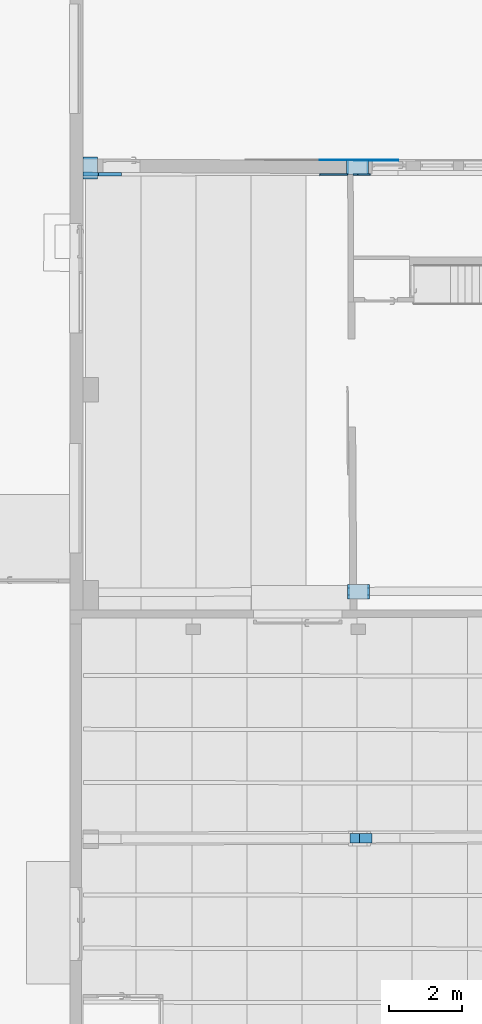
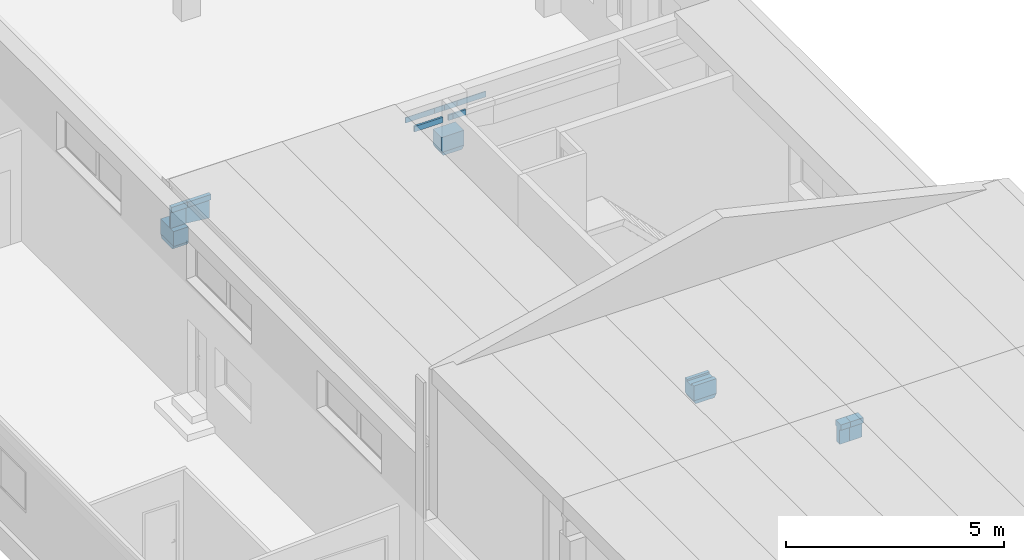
# One storey, part 222 of 301: 17 building element parts, 9 elements without a shape of their own.
"""IFC2X3 building model written with IfcOpenShell, lengths in millimetres."""

import ifcopenshell
import ifcopenshell.guid

model = None  # the IFC model being written
_history = None  # IfcOwnerHistory: only IFC2X3 demands one
_inside = {}  # id of a spatial element -> (the spatial element, [elements in it])
_under = {}  # id of a project, library or spatial element -> (it, [spatial elements below it])
_declared = {}  # id of a project -> (the project, [libraries it declares])
_typed = {}  # id of a type object -> (the type object, [elements of that type])
_made_of = {}  # id of a material, layer set ... -> (it, [elements and type objects made of it])


def new_model(schema):
    """Start an empty IFC model of exactly this schema.

    Asked for "IFC4X3", IfcOpenShell would pick the latest addendum, in which some entities
    have other attributes; the version numbers below select the first issue.
    IFC2X3 requires an IfcOwnerHistory on every rooted entity: one is made here for all.
    """
    global model, _history
    if schema == "IFC4X3":
        model = ifcopenshell.file(schema_version=(4, 3, 0, 0))
    else:
        model = ifcopenshell.file(schema=schema)
    _inside.clear()
    _under.clear()
    _declared.clear()
    _typed.clear()
    _made_of.clear()
    _history = None
    if model.schema == "IFC2X3":
        org = make("IfcOrganization", Name="unknown")
        user = make(
            "IfcPersonAndOrganization",
            ThePerson=make("IfcPerson", FamilyName="unknown"),
            TheOrganization=org,
        )
        app = make(
            "IfcApplication",
            ApplicationDeveloper=org,
            Version="unknown",
            ApplicationFullName="unknown",
            ApplicationIdentifier="unknown",
        )
        _history = make(
            "IfcOwnerHistory",
            OwningUser=user,
            OwningApplication=app,
            ChangeAction="ADDED",
            CreationDate=0,
        )
    return model


def make(cls, **values):
    """One entity of the class cls with the attributes given. An attribute that is None is left unset."""
    return model.create_entity(
        cls, **{name: value for name, value in values.items() if value is not None}
    )


def entity(cls, *values):
    """Any entity or typed value of the class cls, its attributes in the order of the schema. None: left unset."""
    e = model.create_entity(cls)
    for i, value in enumerate(values):
        if value is not None:
            e[i] = value
    return e


def rooted(cls, **values):
    """An entity with a GlobalId (a new one), such as an element, a storey or a relation."""
    return make(cls, GlobalId=ifcopenshell.guid.new(), OwnerHistory=_history, **values)


def si_unit(unit_type, name, prefix=None):
    """IfcSIUnit, for example si_unit("LENGTHUNIT", "METRE", prefix="MILLI")."""
    return make("IfcSIUnit", UnitType=unit_type, Prefix=prefix, Name=name)


def converted_unit(unit_type, name, factor, base, dimensions=None, offset=None):
    """IfcConversionBasedUnit, such as the inch: factor (a typed value) times the base unit."""
    return make(
        "IfcConversionBasedUnit"
        if offset is None
        else "IfcConversionBasedUnitWithOffset",
        ConversionOffset=offset,
        Dimensions=None
        if dimensions is None
        else entity("IfcDimensionalExponents", *dimensions),
        UnitType=unit_type,
        Name=name,
        ConversionFactor=make(
            "IfcMeasureWithUnit", ValueComponent=factor, UnitComponent=base
        ),
    )


def derived_unit(unit_type, elements):
    """IfcDerivedUnit: a product of units, each with its exponent."""
    return make(
        "IfcDerivedUnit",
        Elements=[
            make("IfcDerivedUnitElement", Unit=unit, Exponent=power)
            for unit, power in elements
        ],
        UnitType=unit_type,
    )


def money_unit(currency):
    """IfcMonetaryUnit."""
    return make("IfcMonetaryUnit", Currency=currency)


def assignment(units):
    """IfcUnitAssignment: the units of a project."""
    return None if units is None else make("IfcUnitAssignment", Units=units)


def point(xyz):
    """IfcCartesianPoint."""
    return None if xyz is None else make("IfcCartesianPoint", Coordinates=xyz)


def direction(xyz):
    """IfcDirection."""
    return None if xyz is None else make("IfcDirection", DirectionRatios=xyz)


def frame(location, z_axis=None, x_axis=None):
    """IfcAxis2Placement3D, a coordinate frame: its origin and axes. An axis left out is left unset."""
    return make(
        "IfcAxis2Placement3D",
        Location=point(location),
        Axis=direction(z_axis),
        RefDirection=direction(x_axis),
    )


def origin_with_axes():
    """The frame at (0, 0, 0) with the z axis (0, 0, 1) and the x axis (1, 0, 0) written out."""
    return frame((0.0, 0.0, 0.0), z_axis=(0.0, 0.0, 1.0), x_axis=(1.0, 0.0, 0.0))


def place(relative_to, where):
    """IfcLocalPlacement: puts the frame where relative to a parent placement (None: the world)."""
    return make(
        "IfcLocalPlacement", PlacementRelTo=relative_to, RelativePlacement=where
    )


def context(
    kind, dimensions, precision=None, world=None, true_north=None, identifier=None
):
    """IfcGeometricRepresentationContext, for example the 3D "Model" context."""
    return make(
        "IfcGeometricRepresentationContext",
        ContextIdentifier=identifier,
        ContextType=kind,
        CoordinateSpaceDimension=dimensions,
        Precision=precision,
        WorldCoordinateSystem=world,
        TrueNorth=true_north,
    )


def subcontext(parent, identifier, kind, view, scale=None):
    """IfcGeometricRepresentationSubContext, for example "Body" below "Model"."""
    return make(
        "IfcGeometricRepresentationSubContext",
        ContextIdentifier=identifier,
        ContextType=kind,
        ParentContext=parent,
        TargetScale=scale,
        TargetView=view,
    )


def project(units=None, contexts=None):
    """IfcProject with its units and contexts."""
    return rooted(
        "IfcProject",
        Name="project",
        RepresentationContexts=contexts,
        UnitsInContext=assignment(units),
    )


def spatial(cls, under=None, at=None, **own):
    """A site, building, storey or space (cls), placed at a placement, below another one or the project."""
    s = rooted(cls, ObjectPlacement=at, **own)
    if under is not None:
        _under.setdefault(under.id(), (under, []))[1].append(s)
    return s


def faces_of(points, faces, orient=None, outer=None):
    """IfcFace entities. A face is a list of loops; a loop is a list of indices into points, from 0.

    orient and outer hold one flag for each loop. By default every Orientation is true, the
    first loop of a face is its IfcFaceOuterBound and the others are IfcFaceBound.
    """
    made = []
    for i, loops in enumerate(faces):
        bounds = []
        for j, loop in enumerate(loops):
            is_outer = j == 0 if outer is None else outer[i][j]
            bounds.append(
                make(
                    "IfcFaceOuterBound" if is_outer else "IfcFaceBound",
                    Bound=make("IfcPolyLoop", Polygon=[points[k] for k in loop]),
                    Orientation=True if orient is None else orient[i][j],
                )
            )
        made.append(make("IfcFace", Bounds=bounds))
    return made


def faceted_brep(points, faces, orient=None, outer=None, voids=None):
    """IfcFacetedBrep: a solid bounded by flat faces; with voids (closed shells), ...WithVoids."""
    shared = [point(p) for p in points]
    hull = make("IfcClosedShell", CfsFaces=faces_of(shared, faces, orient, outer))
    if voids is None:
        return make("IfcFacetedBrep", Outer=hull)
    return make(
        "IfcFacetedBrepWithVoids",
        Outer=hull,
        Voids=[
            make(cls, CfsFaces=faces_of(shared, fs, o, b)) for cls, fs, o, b in voids
        ],
    )


def shape(context_of_items, identifier, shape_type, items):
    """IfcShapeRepresentation: the items that make up one representation, for example the "Body"."""
    return make(
        "IfcShapeRepresentation",
        ContextOfItems=context_of_items,
        RepresentationIdentifier=identifier,
        RepresentationType=shape_type,
        Items=items,
    )


def material(Name=None, Category=None):
    """IfcMaterial."""
    return make("IfcMaterial", Name=Name, Category=Category)


def made_of(thing, what):
    """Note that an element or type object is made of a material, layer set ...; save() writes the relation."""
    if what is not None:
        _made_of.setdefault(what.id(), (what, []))[1].append(thing)
    return thing


def type_object(cls, material=None, **own):
    """A type object (cls), such as IfcWallType, which elements share."""
    return made_of(rooted(cls, **own), material)


def element(
    cls,
    number,
    at=None,
    inside=None,
    cuts=None,
    type_object=None,
    material=None,
    context=None,
    identifier="Body",
    shape_type=None,
    held_by="IfcProductDefinitionShape",
    body=None,
    shapes=None,
    **own,
):
    """One element of the class cls, such as IfcWall. Its Tag is "e" and its number.

    at: its placement. inside: the storey or other place that contains it. cuts: it is an
    opening in that element (IfcRelVoidsElement). A single representation is given by context,
    identifier, shape_type and body (its items); several are given by shapes. held_by: the class
    of the entity that holds the representations. save() writes the other relations.
    """
    e = rooted(cls, Tag="e%d" % number, ObjectPlacement=at, **own)
    if body is not None:
        shapes = [shape(context, identifier, shape_type, body)]
    if shapes is not None:
        e.Representation = make(held_by, Representations=shapes)
    if inside is not None:
        _inside.setdefault(inside.id(), (inside, []))[1].append(e)
    if cuts is not None:
        rooted(
            "IfcRelVoidsElement", RelatingBuildingElement=cuts, RelatedOpeningElement=e
        )
    if type_object is not None:
        _typed.setdefault(type_object.id(), (type_object, []))[1].append(e)
    return made_of(e, material)


def aggregate(whole, parts):
    """IfcRelAggregates: a whole, such as a stair, and the parts it consists of."""
    return rooted("IfcRelAggregates", RelatingObject=whole, RelatedObjects=parts)


def save(model, path):
    """Write the relations noted so far, then the file.

    IfcRelAggregates (storeys below a building ...), IfcRelContainedInSpatialStructure (elements
    in a storey), IfcRelDefinesByType, IfcRelAssociatesMaterial and IfcRelDeclares: one each for
    every whole, place, type object, material and project.
    """
    for whole, parts in _under.values():
        aggregate(whole, parts)
    for where, things in _inside.values():
        rooted(
            "IfcRelContainedInSpatialStructure",
            RelatedElements=things,
            RelatingStructure=where,
        )
    for kind, things in _typed.values():
        rooted("IfcRelDefinesByType", RelatedObjects=things, RelatingType=kind)
    for what, things in _made_of.values():
        rooted("IfcRelAssociatesMaterial", RelatedObjects=things, RelatingMaterial=what)
    for by, libraries in _declared.values():
        rooted("IfcRelDeclares", RelatingContext=by, RelatedDefinitions=libraries)
    model.write(path)


model = new_model("IFC2X3")

# Units and contexts
model_context = context("Model", 3, precision=0.01, world=origin_with_axes(), true_north=direction((0.0, 1.0)))
body_context = subcontext(model_context, "Body", "Model", "MODEL_VIEW")
ifc_project = project(units=[si_unit("LENGTHUNIT", "METRE", prefix="MILLI"), si_unit("AREAUNIT", "SQUARE_METRE"), si_unit("VOLUMEUNIT", "CUBIC_METRE"), converted_unit("PLANEANGLEUNIT", "DEGREE", entity("IfcPlaneAngleMeasure", 0.0174532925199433), si_unit("PLANEANGLEUNIT", "RADIAN"), dimensions=[0, 0, 0, 0, 0, 0, 0]), money_unit("EUR"), converted_unit("TIMEUNIT", "Year", entity("IfcTimeMeasure", 31557600.0), si_unit("TIMEUNIT", "SECOND"), dimensions=[0, 0, 1, 0, 0, 0, 0]), si_unit("MASSUNIT", "GRAM", prefix="KILO"), si_unit("THERMODYNAMICTEMPERATUREUNIT", "DEGREE_CELSIUS"), si_unit("LUMINOUSINTENSITYUNIT", "LUMEN"), si_unit("ENERGYUNIT", "JOULE", prefix="MEGA"), derived_unit("THERMALCONDUCTANCEUNIT", [(si_unit("POWERUNIT", "WATT"), 1), (si_unit("LENGTHUNIT", "METRE"), -1), (si_unit("THERMODYNAMICTEMPERATUREUNIT", "KELVIN"), -1)]), derived_unit("SPECIFICHEATCAPACITYUNIT", [(si_unit("ENERGYUNIT", "JOULE"), 1), (si_unit("MASSUNIT", "GRAM", prefix="KILO"), -1), (si_unit("THERMODYNAMICTEMPERATUREUNIT", "KELVIN"), -1)]), derived_unit("MASSDENSITYUNIT", [(si_unit("MASSUNIT", "GRAM", prefix="KILO"), 1), (si_unit("VOLUMEUNIT", "CUBIC_METRE"), -1)])], contexts=[model_context])

# Site, building, storey
site_placement = place(None, frame((0.0, 0.0, 8650.0), z_axis=(0.0, 0.0, 1.0), x_axis=(1.0, 0.0, 0.0)))
site = spatial("IfcSite", under=ifc_project, at=site_placement, Name="43301:001:0844", CompositionType="ELEMENT")
building_placement = place(site_placement, origin_with_axes())
building = spatial("IfcBuilding", under=site, at=building_placement, Name="Kuressaare Ametikooli tuulikute mehaanikute õppekorpus", CompositionType="ELEMENT")
storey_placement = place(building_placement, origin_with_axes())
storey = spatial("IfcBuildingStorey", under=building, at=storey_placement, Name="1.korrus", CompositionType="ELEMENT", Elevation=0.0)

# Beam, building element part
beam_type_1 = type_object("IfcBeamType", Name="Various Structures - 5 Segments - 250 x 700 x 7435 (338+766+5341+640+350)", PredefinedType="NOTDEFINED")
beam_1_placement = place(storey_placement, frame((95793.5361313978, 56107.49431488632, 6659.999999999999), z_axis=(0.0, 0.0, 1.0), x_axis=(0.005495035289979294, -0.9999849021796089, 0.0)))
beam_1 = element("IfcBeam", 1, at=beam_1_placement, inside=storey, type_object=beam_type_1)
ifc_material_1 = material(Name="Raudbetoon")
building_element_part_1_placement = place(beam_1_placement, origin_with_axes())
building_element_part_1 = element("IfcBuildingElementPart", 2, at=building_element_part_1_placement, material=ifc_material_1, Name="Raudbetoon", context=body_context, shape_type="Brep", body=[
    faceted_brep([(-123.0248502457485, 337.7568168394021, 0.0), (-123.0248351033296, 337.7568168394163, -5.000214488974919), (96.1340771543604, 337.7568168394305, -5.000214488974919), (96.13409229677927, 337.7568168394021, 0.0), (125.0055545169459, 337.7568168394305, 0.0), (125.0052826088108, 337.7568168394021, -150.0000000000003), (64.99999999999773, 337.7568168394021, -164.4012678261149), (64.99999999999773, 337.7568168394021, -579.8231697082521), (-65.00000000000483, 337.7568168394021, -579.8231697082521), (-65.00000000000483, 337.7568168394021, -164.4012678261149), (-125.0052826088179, 337.7568168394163, -150.0000000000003), (-125.0055545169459, 337.7568168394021, 0.0), (-123.6647462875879, 0.0, -5.000214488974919), (-123.6647614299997, 0.0, 0.0), (95.49416597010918, 0.0, -5.000214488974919), (95.49418111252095, 0.0, 0.0), (125.0055545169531, 0.0, 0.0), (125.0052826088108, 0.0, -150.0000000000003), (64.99999999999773, 0.0, -164.4012678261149), (64.99999999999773, 0.0, -579.8231697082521), (-64.99999999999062, 0.0, -579.8231697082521), (-64.99999999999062, 0.0, -164.4012678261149), (-125.0052826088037, 0.0, -150.0000000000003), (-125.0055545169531, 0.0, 0.0)], [[[0, 1, 2, 3, 4, 5, 6, 7, 8, 9, 10, 11]], [[12, 1, 0, 13]], [[14, 2, 1, 12]], [[14, 15, 3, 2]], [[4, 3, 15, 16]], [[16, 17, 5, 4]], [[17, 18, 6, 5]], [[18, 19, 7, 6]], [[19, 20, 8, 7]], [[20, 21, 9, 8]], [[21, 22, 10, 9]], [[22, 23, 11, 10]], [[23, 13, 0, 11]], [[14, 12, 13, 23, 22, 21, 20, 19, 18, 17, 16, 15]]]),
])
aggregate(beam_1, [building_element_part_1])

beam_type_2 = type_object("IfcBeamType", Name="Various Structures - 5 Segments - 250 x 700 x 7535 (262+767+5466+621+419)", PredefinedType="NOTDEFINED")
beam_2_placement = place(storey_placement, frame((95793.5361313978, 56107.49431488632, 6659.999999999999), z_axis=(0.0, 0.0, 1.0), x_axis=(-0.001731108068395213, 0.9999985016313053, 0.0)))
beam_2 = element("IfcBeam", 3, at=beam_2_placement, inside=storey, type_object=beam_type_2)
building_element_part_2_placement = place(beam_2_placement, origin_with_axes())
building_element_part_2 = element("IfcBuildingElementPart", 4, at=building_element_part_2_placement, material=ifc_material_1, Name="Raudbetoon", context=body_context, shape_type="Brep", body=[
    faceted_brep([(123.6647555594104, 0.0, 0.0), (123.6647404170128, 0.0, -5.000214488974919), (-95.49416143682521, 0.0, -5.000214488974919), (-95.49417657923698, 0.0, 0.0), (-125.0055545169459, 0.0, 0.0), (-125.0052826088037, 0.0, -150.0000000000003), (-64.99999999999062, 0.0, -164.4012678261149), (-64.99999999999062, 0.0, -579.8231697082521), (65.00000000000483, 0.0, -579.8231697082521), (65.00000000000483, 0.0, -164.4012678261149), (125.0052826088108, 0.0, -150.0000000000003), (125.0055545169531, 0.0, 0.0), (123.17538164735, 261.7777961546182, -5.000214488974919), (123.1753967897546, 261.7777961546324, 0.0), (-95.98352020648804, 261.7777961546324, -5.000214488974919), (-95.9835353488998, 261.7777961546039, 0.0), (-125.0055545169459, 261.7777961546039, 0.0), (-125.0052826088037, 261.7777961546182, -150.0000000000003), (-64.99999999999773, 261.7777961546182, -164.4012678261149), (-64.99999999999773, 261.7777961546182, -579.8231697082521), (65.00000000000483, 261.7777961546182, -579.8231697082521), (65.00000000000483, 261.7777961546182, -164.4012678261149), (125.0052826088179, 261.7777961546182, -150.0000000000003), (125.0055545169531, 261.7777961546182, 0.0)], [[[0, 1, 2, 3, 4, 5, 6, 7, 8, 9, 10, 11]], [[12, 1, 0, 13]], [[14, 2, 1, 12]], [[14, 15, 3, 2]], [[4, 3, 15, 16]], [[5, 4, 16, 17]], [[6, 5, 17, 18]], [[7, 6, 18, 19]], [[8, 7, 19, 20]], [[9, 8, 20, 21]], [[10, 9, 21, 22]], [[11, 10, 22, 23]], [[23, 13, 0, 11]], [[14, 12, 13, 23, 22, 21, 20, 19, 18, 17, 16, 15]]]),
])
aggregate(beam_2, [building_element_part_2])

# Column, building element parts
column_type_1 = type_object("IfcColumnType", Name="Various Structures - 3 Segments - 600 x 400 x 4050 (3533+102+415)", PredefinedType="NOTDEFINED")
column_1_placement = place(storey_placement, frame((95739.70185815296, 74382.82610490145, -330.0), z_axis=(0.0, 0.0, 1.0), x_axis=(1.0, 0.0, 0.0)))
column_1 = element("IfcColumn", 5, at=column_1_placement, inside=storey, type_object=column_type_1)
ifc_material_2 = material(Name="GENEERILINE - KONSTRUKTRIOON")
building_element_part_3_placement = place(column_1_placement, origin_with_axes())
building_element_part_3 = element("IfcBuildingElementPart", 6, at=building_element_part_3_placement, material=ifc_material_2, Name="GENEERILINE - KONSTRUKTRIOON", context=body_context, shape_type="Brep", body=[
    faceted_brep([(299.9999999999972, -200.0000000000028, 3635.0), (-299.9999999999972, -200.0000000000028, 3635.0), (-250.0, -200.0000000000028, 3532.979557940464), (250.0, -200.0000000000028, 3532.979557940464), (299.9999999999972, 200.0000000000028, 3635.0), (-299.9999999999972, 200.0000000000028, 3635.0), (-250.0, 200.0000000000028, 3532.979557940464), (250.0, 200.0000000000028, 3532.979557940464)], [[[0, 1, 2, 3]], [[4, 5, 1, 0]], [[1, 5, 6, 2]], [[7, 3, 2, 6]], [[4, 0, 3, 7]], [[5, 4, 7, 6]]]),
])
building_element_part_4_placement = place(column_1_placement, origin_with_axes())
building_element_part_4 = element("IfcBuildingElementPart", 7, at=building_element_part_4_placement, material=ifc_material_2, Name="GENEERILINE - KONSTRUKTRIOON", context=body_context, shape_type="Brep", body=[
    faceted_brep([(-299.9999999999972, -200.0000000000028, 4050.0), (-299.9999999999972, -200.0000000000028, 3635.0), (299.9999999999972, -200.0000000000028, 3635.0), (299.9999999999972, -200.0000000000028, 4050.0), (-299.9999999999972, 200.0000000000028, 4050.0), (-299.9999999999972, 200.0000000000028, 3635.0), (299.9999999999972, 200.0000000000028, 3635.0), (299.9999999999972, 200.0000000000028, 4050.0)], [[[0, 1, 2, 3]], [[4, 5, 1, 0]], [[2, 1, 5, 6]], [[3, 2, 6, 7]], [[4, 0, 3, 7]], [[7, 6, 5, 4]]]),
])
aggregate(column_1, [building_element_part_3, building_element_part_4])

# Beam, building element parts
beam_type_3 = type_object("IfcBeamType", Name="Various Structures - 5 Segments - 250 x 700 x 7488 (338+766+5404+640+341)", PredefinedType="NOTDEFINED")
beam_3_placement = place(storey_placement, frame((95739.59932354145, 74462.89050016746, 4300.0), z_axis=(0.0, 0.0, 1.0), x_axis=(0.001815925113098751, -0.9999983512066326, 0.0)))
beam_3 = element("IfcBeam", 8, at=beam_3_placement, inside=storey, type_object=beam_type_3)
building_element_part_5_placement = place(beam_3_placement, origin_with_axes())
building_element_part_5 = element("IfcBuildingElementPart", 9, at=building_element_part_5_placement, material=ifc_material_1, Name="Raudbetoon", context=body_context, shape_type="Brep", body=[
    faceted_brep([(-125.0055545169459, 0.0, 0.0), (-104.536753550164, 0.0, 0.0), (-102.0204727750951, 337.7568168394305, 0.0), (-125.0055545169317, 337.7568168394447, 0.0), (-125.0052826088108, 0.0, -150.0000000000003), (-104.536753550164, 0.0, -154.912446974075), (-102.0204727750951, 337.7568168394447, -155.5163543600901), (-125.0052826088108, 337.7568168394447, -150.0000000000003)], [[[0, 1, 2, 3]], [[4, 5, 1, 0]], [[5, 6, 2, 1]], [[3, 2, 6, 7]], [[3, 7, 4, 0]], [[7, 6, 5, 4]]]),
])
building_element_part_6_placement = place(beam_3_placement, origin_with_axes())
building_element_part_6 = element("IfcBuildingElementPart", 10, at=building_element_part_6_placement, material=ifc_material_1, Name="Raudbetoon", context=body_context, shape_type="Brep", body=[
    faceted_brep([(-102.0204727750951, 337.7568168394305, 0.0), (-101.5820907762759, 396.600213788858, 0.0), (-100.2980713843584, 1103.687342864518, 0.0), (-125.0047820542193, 1103.687342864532, 0.0), (-125.0049071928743, 912.2047113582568, 0.0), (-125.00515747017, 529.2394483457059, 0.0), (-125.0052826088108, 337.7568168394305, 0.0), (-102.0204727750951, 337.7568168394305, -155.5162844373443), (-101.5820907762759, 396.600213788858, -155.621486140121), (-100.2980713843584, 1103.687342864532, -155.9295309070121), (-125.0044501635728, 1103.687342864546, -150.0000000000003), (-125.004616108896, 1103.687342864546, -75.00000000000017), (-125.0048765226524, 720.7220798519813, -75.00000000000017), (-125.0051369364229, 337.7568168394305, -75.00000000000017), (-125.004991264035, 337.7568168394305, -150.0000000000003), (-125.0048559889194, 529.2394483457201, -150.0000000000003), (-125.0045854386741, 912.2047113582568, -150.0000000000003)], [[[0, 1, 2, 3, 4, 5, 6]], [[7, 8, 1, 0]], [[8, 9, 2, 1]], [[3, 2, 9, 10, 11]], [[11, 4, 3]], [[12, 5, 4]], [[13, 6, 5]], [[14, 7, 0, 6, 13]], [[10, 9, 8, 7, 14, 15, 16]], [[10, 16, 11]], [[12, 4, 11, 16]], [[13, 5, 12, 15]], [[15, 14, 13]], [[16, 15, 12]]]),
])
aggregate(beam_3, [building_element_part_5, building_element_part_6])

beam_type_4 = type_object("IfcBeamType", Name="Various Structures - 5 Segments - 250 x 700 x 3042 (262+767+2013+0+0)", PredefinedType="NOTDEFINED")
beam_4_placement = place(storey_placement, frame((95739.59932354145, 74462.89050016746, 4300.0), z_axis=(0.0, 0.0, 1.0), x_axis=(-0.001094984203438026, 0.9999994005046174, 0.0)))
beam_4 = element("IfcBeam", 11, at=beam_4_placement, inside=storey, type_object=beam_type_4)
building_element_part_7_placement = place(beam_4_placement, origin_with_axes())
building_element_part_7 = element("IfcBuildingElementPart", 12, at=building_element_part_7_placement, material=ifc_material_1, Name="Raudbetoon", context=body_context, shape_type="Brep", body=[
    faceted_brep([(125.0055545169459, 261.7777961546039, 0.0), (106.2977219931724, 261.7777961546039, 0.0), (104.5362192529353, 0.0, 0.0), (125.0055545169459, 0.0, 0.0), (125.0052826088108, 261.7777961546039, -150.0000000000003), (106.2977219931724, 261.7777961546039, -154.4898145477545), (104.5362192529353, 0.0, -154.9125752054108), (125.0052826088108, 0.0, -150.0000000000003)], [[[0, 1, 2, 3]], [[4, 5, 1, 0]], [[5, 6, 2, 1]], [[3, 2, 6, 7]], [[4, 0, 3, 7]], [[7, 6, 5, 4]]]),
])
building_element_part_8_placement = place(beam_4_placement, origin_with_axes())
building_element_part_8 = element("IfcBuildingElementPart", 13, at=building_element_part_8_placement, material=ifc_material_1, Name="Raudbetoon", context=body_context, shape_type="Brep", body=[
    faceted_brep([(125.0047820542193, 1028.909484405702, 0.0), (111.4597509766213, 1028.909484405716, 0.0), (106.2977219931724, 261.7777961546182, 0.0), (125.0052826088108, 261.7777961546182, 0.0), (125.0051574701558, 453.5607182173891, 0.0), (125.0049071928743, 837.1265623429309, 0.0), (125.0044501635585, 1028.909484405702, -150.0000000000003), (111.4597509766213, 1028.909484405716, -153.250727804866), (125.004616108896, 1028.909484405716, -75.00000000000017), (106.2977219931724, 261.7777961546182, -154.4897446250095), (125.0049912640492, 261.7777961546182, -150.0000000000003), (125.0051369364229, 261.7777961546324, -75.00000000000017), (125.0048765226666, 645.3436402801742, -75.00000000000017), (125.0045854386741, 837.1265623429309, -150.0000000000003), (125.0048559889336, 453.5607182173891, -150.0000000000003)], [[[0, 1, 2, 3, 4, 5]], [[6, 7, 1, 0, 8]], [[7, 9, 2, 1]], [[3, 2, 9, 10, 11]], [[4, 3, 11]], [[5, 4, 12]], [[0, 5, 8]], [[10, 9, 7, 6, 13, 14]], [[8, 13, 6]], [[11, 10, 14]], [[11, 14, 12, 4]], [[12, 13, 8, 5]], [[12, 14, 13]]]),
])
aggregate(beam_4, [building_element_part_7, building_element_part_8])

# Beam, building element part
beam_type_5 = type_object("IfcBeamType", Name="Various Structures - 5 Segments - 250 x 700 x 7349 (338+766+5264+640+341)", PredefinedType="NOTDEFINED")
beam_5_placement = place(storey_placement, frame((95739.02868207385, 74286.49697267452, 4300.0), z_axis=(0.0, 0.0, 1.0), x_axis=(-0.001219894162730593, -0.9999992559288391, 0.0)))
beam_5 = element("IfcBeam", 14, at=beam_5_placement, inside=storey, type_object=beam_type_5)
building_element_part_9_placement = place(beam_5_placement, origin_with_axes())
building_element_part_9 = element("IfcBuildingElementPart", 15, at=building_element_part_9_placement, material=ifc_material_1, Name="Raudbetoon", context=body_context, shape_type="Brep", body=[
    faceted_brep([(125.005282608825, 337.7568168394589, -150.0000000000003), (80.56384948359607, 337.7568168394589, -160.6659439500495), (80.56384948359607, 337.7568168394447, 0.0), (125.0055545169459, 337.7568168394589, 0.0), (125.0052826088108, 0.0, -150.0000000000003), (79.0729746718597, 0.0, -161.0237539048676), (79.0729746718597, 0.0, 0.0), (125.0055545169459, 0.0, 0.0)], [[[0, 1, 2, 3]], [[4, 5, 1, 0]], [[5, 6, 2, 1]], [[3, 2, 6, 7]], [[7, 4, 0, 3]], [[7, 6, 5, 4]]]),
])
aggregate(beam_5, [building_element_part_9])

# Beam, building element parts
beam_type_6 = type_object("IfcBeamType", Name="Various Structures - 5 Segments - 250 x 700 x 7330 (121+758+5410+621+420)", PredefinedType="NOTDEFINED")
beam_6_placement = place(storey_placement, frame((95739.02868207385, 74286.49697267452, 4300.0), z_axis=(0.0, 0.0, 1.0), x_axis=(-0.001973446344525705, 0.9999980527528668, 0.0)))
beam_6 = element("IfcBeam", 16, at=beam_6_placement, inside=storey, type_object=beam_type_6)
building_element_part_10_placement = place(beam_6_placement, origin_with_axes())
building_element_part_10 = element("IfcBuildingElementPart", 17, at=building_element_part_10_placement, material=ifc_material_1, Name="Raudbetoon", context=body_context, shape_type="Brep", body=[
    faceted_brep([(-125.005282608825, 0.0, -150.0000000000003), (-79.07449244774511, 0.0, -161.0233896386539), (-79.07449244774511, 0.0, 0.0), (-125.0055545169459, 0.0, 0.0), (-125.0052826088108, 120.6348806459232, -150.0000000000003), (-78.15713892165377, 120.5852824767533, -161.2435544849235), (-78.15713892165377, 120.5852824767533, 0.0), (-125.0055545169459, 120.6348809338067, 0.0)], [[[0, 1, 2, 3]], [[4, 5, 1, 0]], [[5, 6, 2, 1]], [[3, 2, 6, 7]], [[3, 7, 4, 0]], [[7, 6, 5, 4]]]),
])
building_element_part_11_placement = place(beam_6_placement, origin_with_axes())
building_element_part_11 = element("IfcBuildingElementPart", 18, at=building_element_part_11_placement, material=ifc_material_1, Name="Raudbetoon", context=body_context, shape_type="Brep", body=[
    faceted_brep([(-125.0049850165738, 270.6349643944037, -150.0000000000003), (-77.01602124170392, 270.5841584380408, -161.5173513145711), (-77.01602124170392, 270.5841584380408, 0.0), (-125.0052768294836, 270.6349647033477, 0.0), (-125.0051378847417, 270.6349645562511, -71.53625243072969), (-125.0051239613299, 270.6349645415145, -78.46374756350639), (-125.0044501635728, 1028.90948440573, -150.0000000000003), (-71.24705510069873, 1028.909484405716, -162.9017748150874), (-125.0048559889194, 453.5607182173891, -150.0000000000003), (-125.0045854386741, 837.1265623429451, -150.0000000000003), (-71.24705510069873, 1028.90948440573, 0.0), (-125.0047820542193, 1028.90948440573, 0.0), (-125.0049071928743, 837.1265623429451, 0.0), (-125.0051574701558, 453.5607182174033, 0.0), (-125.0048765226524, 645.3436402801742, -75.00000000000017), (-125.004616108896, 1028.909484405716, -75.00000000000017)], [[[0, 1, 2, 3, 4, 5]], [[6, 7, 1, 0, 8, 9]], [[7, 10, 2, 1]], [[3, 2, 10, 11, 12, 13]], [[13, 4, 3]], [[8, 5, 4, 13, 14]], [[8, 0, 5]], [[11, 10, 7, 6, 15]], [[14, 9, 8]], [[15, 6, 9]], [[11, 15, 12]], [[12, 14, 13]], [[15, 9, 14, 12]]]),
])
building_element_part_12_placement = place(beam_6_placement, origin_with_axes())
building_element_part_12 = element("IfcBuildingElementPart", 19, at=building_element_part_12_placement, material=ifc_material_1, Name="Raudbetoon", context=body_context, shape_type="Brep", body=[
    faceted_brep([(-64.99999999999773, 6439.122656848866, -699.9999999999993), (-30.08881398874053, 6439.122656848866, -699.9999999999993), (-30.08881398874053, 6439.122656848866, 0.0), (-125.0050883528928, 6439.122656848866, 0.0), (-125.0049352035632, 6439.12265684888, -75.00000000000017), (-125.0047820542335, 6439.122656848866, -150.0000000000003), (-64.99999999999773, 6439.122656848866, -164.4011476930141), (-64.99999999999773, 7060.508280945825, -629.9999999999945), (-25.36161775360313, 7060.508280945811, -629.9999999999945), (-25.36161775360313, 7060.508280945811, 0.0), (-125.0055545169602, 7060.508280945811, 0.0), (-125.0054379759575, 6905.161874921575, 0.0), (-125.0052048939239, 6594.469062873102, 0.0), (-125.0049071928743, 6594.469062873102, -150.0000000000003), (-125.0052826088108, 7060.508280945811, -150.0000000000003), (-64.99999999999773, 7060.508280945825, -164.4012678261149), (-125.0051574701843, 6905.161874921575, -150.0000000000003), (-125.0054185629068, 7060.508280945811, -75.00000000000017), (-125.005176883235, 6749.815468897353, -75.00000000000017)], [[[0, 1, 2, 3, 4, 5, 6]], [[7, 8, 1, 0]], [[8, 9, 2, 1]], [[3, 2, 9, 10, 11, 12]], [[12, 4, 3]], [[4, 13, 5]], [[14, 15, 6, 5, 13, 16]], [[15, 7, 0, 6]], [[10, 9, 8, 7, 15, 14, 17]], [[10, 17, 11]], [[11, 18, 12]], [[18, 13, 4, 12]], [[18, 16, 13]], [[17, 14, 16]], [[17, 16, 18, 11]]]),
])
building_element_part_13_placement = place(beam_6_placement, origin_with_axes())
building_element_part_13 = element("IfcBuildingElementPart", 20, at=building_element_part_13_placement, material=ifc_material_1, Name="Raudbetoon", context=body_context, shape_type="Brep", body=[
    faceted_brep([(-64.99999999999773, 7060.508280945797, -629.999999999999), (-25.36161775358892, 7060.508280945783, -629.999999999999), (-25.36161775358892, 7060.508280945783, 0.0), (-125.0055545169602, 7060.508280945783, 0.0), (-125.0052826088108, 7060.508280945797, -150.0000000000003), (-64.99999999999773, 7060.508280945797, -164.4012678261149), (-65.00000000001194, 7480.28680120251, -629.999999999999), (-22.16814921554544, 7480.28680120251, -629.999999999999), (-22.16814921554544, 7480.28680120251, 0.0), (-125.0055545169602, 7480.286801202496, 0.0), (-125.005282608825, 7480.286801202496, -150.0000000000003), (-65.00000000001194, 7480.28680120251, -164.4012678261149)], [[[0, 1, 2, 3, 4, 5]], [[6, 7, 1, 0]], [[7, 8, 2, 1]], [[3, 2, 8, 9]], [[4, 3, 9, 10]], [[5, 4, 10, 11]], [[0, 5, 11, 6]], [[9, 8, 7, 6, 11, 10]]]),
])
aggregate(beam_6, [building_element_part_10, building_element_part_11, building_element_part_12, building_element_part_13])

# Column, building element parts
column_type_2 = type_object("IfcColumnType", Name="Various Structures - 3 Segments - 600 x 400 x 3710 (3193+102+415)", PredefinedType="NOTDEFINED")
column_2_placement = place(storey_placement, frame((95761.69583762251, 62819.29866482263, 44.99999999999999), z_axis=(0.0, 0.0, 1.0), x_axis=(1.0, 0.0, 0.0)))
column_2 = element("IfcColumn", 21, at=column_2_placement, inside=storey, type_object=column_type_2)
building_element_part_14_placement = place(column_2_placement, origin_with_axes())
building_element_part_14 = element("IfcBuildingElementPart", 22, at=building_element_part_14_placement, material=ifc_material_2, Name="GENEERILINE - KONSTRUKTRIOON", context=body_context, shape_type="Brep", body=[
    faceted_brep([(299.9999999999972, -200.0000000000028, 3295.018521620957), (-299.9999999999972, -200.0000000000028, 3295.018521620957), (-250.0, -200.0000000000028, 3192.998079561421), (250.0, -200.0000000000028, 3192.998079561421), (299.9999999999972, 200.0000000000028, 3295.018521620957), (-299.9999999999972, 200.0000000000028, 3295.018521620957), (-250.0, 200.0000000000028, 3192.998079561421), (250.0, 200.0000000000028, 3192.998079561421)], [[[0, 1, 2, 3]], [[4, 5, 1, 0]], [[1, 5, 6, 2]], [[7, 3, 2, 6]], [[4, 0, 3, 7]], [[5, 4, 7, 6]]]),
])
building_element_part_15_placement = place(column_2_placement, origin_with_axes())
building_element_part_15 = element("IfcBuildingElementPart", 23, at=building_element_part_15_placement, material=ifc_material_2, Name="GENEERILINE - KONSTRUKTRIOON", context=body_context, shape_type="Brep", body=[
    faceted_brep([(-299.9999999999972, 200.0000000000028, 3710.018521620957), (-299.9999999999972, 107.4174086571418, 3710.018521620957), (299.9999999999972, 109.4966063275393, 3710.018521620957), (299.9999999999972, 200.0000000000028, 3710.018521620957), (-299.9999999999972, -92.58379219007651, 3659.998829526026), (-299.9999999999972, 107.4174086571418, 3659.998829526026), (-299.9999999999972, 200.0000000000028, 3295.018521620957), (-299.9999999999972, -200.0000000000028, 3295.018521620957), (-299.9999999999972, -200.0000000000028, 3710.018521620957), (-299.9999999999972, -92.58379219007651, 3710.018521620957), (299.9999999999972, 109.4966063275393, 3659.998829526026), (299.9999999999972, -90.50459451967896, 3659.998829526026), (299.9999999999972, -90.50459451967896, 3710.018521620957), (299.9999999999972, -200.0000000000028, 3710.018521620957), (299.9999999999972, -200.0000000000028, 3295.018521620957), (299.9999999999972, 200.0000000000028, 3295.018521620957)], [[[0, 1, 2, 3]], [[4, 5, 1, 0, 6, 7, 8, 9]], [[5, 10, 2, 1]], [[10, 11, 12, 13, 14, 15, 3, 2]], [[0, 3, 15, 6]], [[4, 11, 10, 5]], [[15, 14, 7, 6]], [[13, 8, 7, 14]], [[13, 12, 9, 8]], [[4, 9, 12, 11]]]),
])
aggregate(column_2, [building_element_part_14, building_element_part_15])

column_type_3 = type_object("IfcColumnType", Name="Various Structures - 3 Segments - 600 x 400 x 4000 (3483+102+415)", PredefinedType="NOTDEFINED")
column_3_placement = place(storey_placement, frame((88458.86060923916, 74359.57229505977, -330.0), z_axis=(0.0, 0.0, 1.0), x_axis=(0.0, 1.0, 0.0)))
column_3 = element("IfcColumn", 24, at=column_3_placement, inside=storey, type_object=column_type_3)
building_element_part_16_placement = place(column_3_placement, origin_with_axes())
building_element_part_16 = element("IfcBuildingElementPart", 25, at=building_element_part_16_placement, material=ifc_material_2, Name="GENEERILINE - KONSTRUKTRIOON", context=body_context, shape_type="Brep", body=[
    faceted_brep([(299.9999999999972, -200.0000000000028, 3585.0), (-299.9999999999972, -200.0000000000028, 3585.0), (-250.0, -200.0000000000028, 3482.979557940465), (250.0, -200.0000000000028, 3482.979557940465), (299.9999999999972, 200.0000000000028, 3585.0), (-299.9999999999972, 200.0000000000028, 3585.0), (-250.0, 200.0000000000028, 3482.979557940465), (250.0, 200.0000000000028, 3482.979557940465)], [[[0, 1, 2, 3]], [[4, 5, 1, 0]], [[1, 5, 6, 2]], [[7, 3, 2, 6]], [[4, 0, 3, 7]], [[5, 4, 7, 6]]]),
])
building_element_part_17_placement = place(column_3_placement, origin_with_axes())
building_element_part_17 = element("IfcBuildingElementPart", 26, at=building_element_part_17_placement, material=ifc_material_2, Name="GENEERILINE - KONSTRUKTRIOON", context=body_context, shape_type="Brep", body=[
    faceted_brep([(-299.9999999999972, -200.0000000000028, 4000.0), (-299.9999999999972, -200.0000000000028, 3585.0), (299.9999999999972, -200.0000000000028, 3585.0), (299.9999999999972, -200.0000000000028, 4000.0), (-299.9999999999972, 200.0000000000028, 4000.0), (-299.9999999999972, 200.0000000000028, 3585.0), (299.9999999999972, 200.0000000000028, 3585.0), (299.9999999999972, 200.0000000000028, 4000.0)], [[[0, 1, 2, 3]], [[4, 5, 1, 0]], [[2, 1, 5, 6]], [[3, 2, 6, 7]], [[4, 0, 3, 7]], [[7, 6, 5, 4]]]),
])
aggregate(column_3, [building_element_part_16, building_element_part_17])

save(model, "model.ifc")
